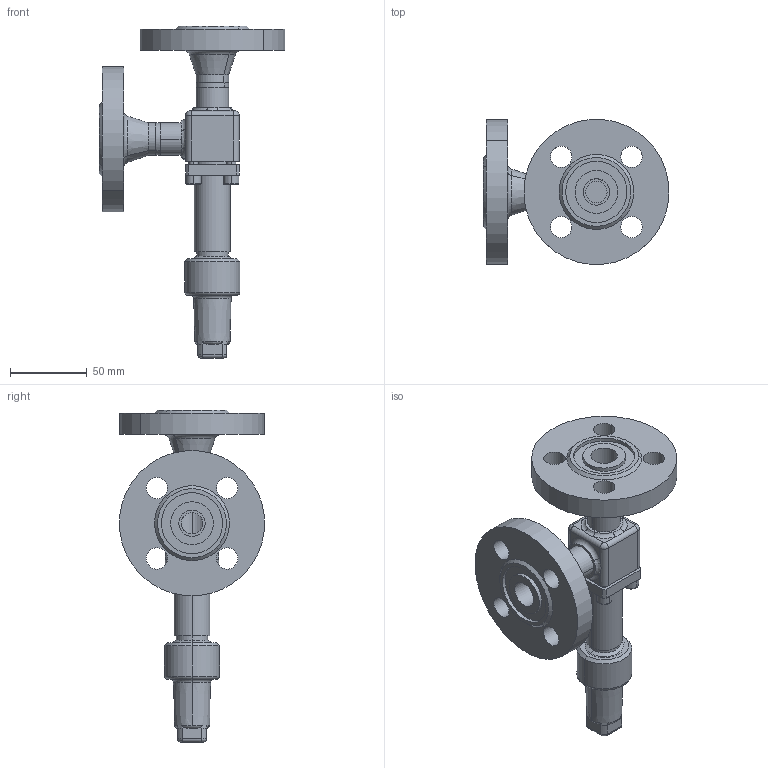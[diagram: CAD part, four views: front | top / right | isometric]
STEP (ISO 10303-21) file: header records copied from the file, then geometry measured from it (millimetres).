
FILE_DESCRIPTION (( 'STEP AP214' ), '1' );
FILE_NAME ('AVR96430-DN015_DIN-FL-N_PS40.STEP', '2006-05-02T08:24:47', ( 'Herr Grams' ), ( 'AWP GmbH' ), 'SwSTEP 2.0', 'SolidWorks 2002296', '' );
FILE_SCHEMA (( 'AUTOMOTIVE_DESIGN' ));
Length unit declared in the file: millimetre
Products named in the file (10): AVR96430-DN015_DIN-FL-N_PS40; Geh-kpl96420E10-DN15_PS40_DIN-FL_Standard; Gehäuse96400E10-DN15_PS40_R1_Standard; Flansch-DIN2635-Nut_PS40_DIN-Flansch-DN015_PS40-Nut; bead964-DN015-1_Standard; bead964-DN015-2_Standard; AVR96310E10_Deck+Schr-DN6-15_Standard; Deckel96310E10-DN6-15_PS40_Standard; Zylinderschraube-DIN912_M 6x 18; Kappe96300E10_DN6-20_Standard
Assembly tree (13 placements, depth 3):
  AVR96430-DN015_DIN-FL-N_PS40
    Geh-kpl96420E10-DN15_PS40_DIN-FL_Standard
      Flansch-DIN2635-Nut_PS40_DIN-Flansch-DN015_PS40-Nut  x2
      bead964-DN015-1_Standard
      bead964-DN015-2_Standard
      Gehäuse96400E10-DN15_PS40_R1_Standard
    Kappe96300E10_DN6-20_Standard
    AVR96310E10_Deck+Schr-DN6-15_Standard
      Zylinderschraube-DIN912_M 6x 18  x4
      Deckel96310E10-DN6-15_PS40_Standard
Bounding box: 121.32 x 94.64 x 217 mm (x, y, z)
Volume: 292940.3 mm3; surface area: 83014.6 mm2
Topology: 11 solids, 11 shells, 310 faces, 693 edges, 430 vertices
Faces by surface type: cylinder 120, plane 95, cone 42, torus 38, bspline 15
Entity records: 13548 total; most frequent: CARTESIAN_POINT 7644, DIRECTION 1149, ORIENTED_EDGE 1014, EDGE_CURVE 507, AXIS2_PLACEMENT_3D 485, VERTEX_POINT 312, EDGE_LOOP 265, CIRCLE 258
